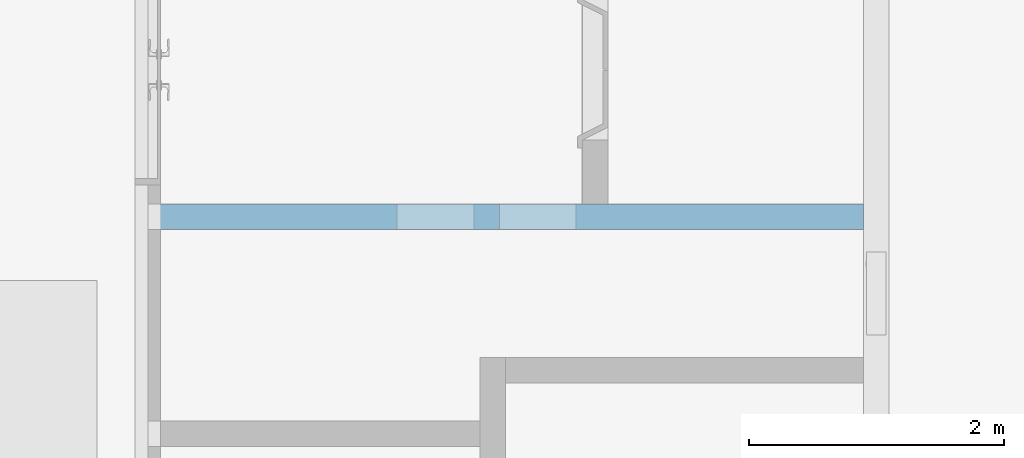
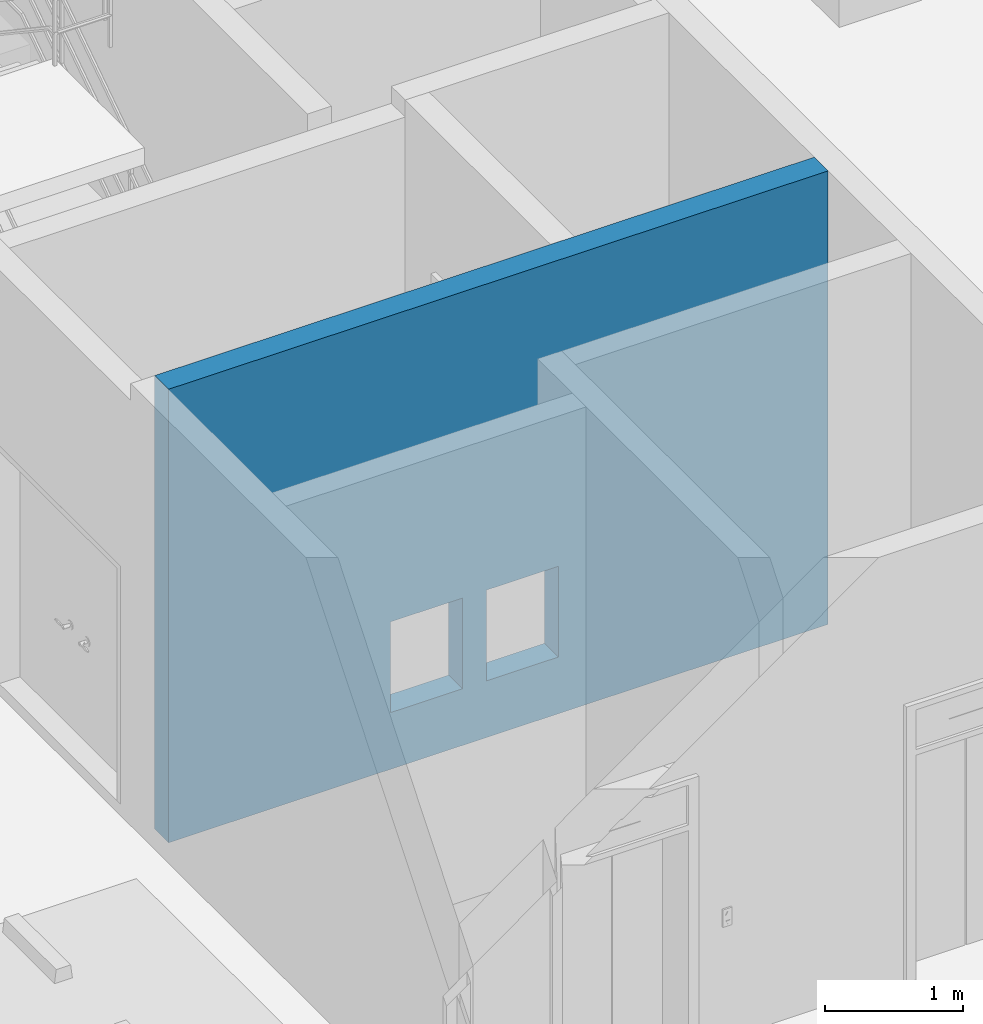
# One storey, part 11 of 30: 1 wall, 2 openings.
"""IFC2X3 building model written with IfcOpenShell, lengths in millimetres."""

import ifcopenshell
import ifcopenshell.guid

model = None  # the IFC model being written
_history = None  # IfcOwnerHistory: only IFC2X3 demands one
_inside = {}  # id of a spatial element -> (the spatial element, [elements in it])
_under = {}  # id of a project, library or spatial element -> (it, [spatial elements below it])
_declared = {}  # id of a project -> (the project, [libraries it declares])
_typed = {}  # id of a type object -> (the type object, [elements of that type])
_made_of = {}  # id of a material, layer set ... -> (it, [elements and type objects made of it])


def new_model(schema):
    """Start an empty IFC model of exactly this schema.

    Asked for "IFC4X3", IfcOpenShell would pick the latest addendum, in which some entities
    have other attributes; the version numbers below select the first issue.
    IFC2X3 requires an IfcOwnerHistory on every rooted entity: one is made here for all.
    """
    global model, _history
    if schema == "IFC4X3":
        model = ifcopenshell.file(schema_version=(4, 3, 0, 0))
    else:
        model = ifcopenshell.file(schema=schema)
    _inside.clear()
    _under.clear()
    _declared.clear()
    _typed.clear()
    _made_of.clear()
    _history = None
    if model.schema == "IFC2X3":
        org = make("IfcOrganization", Name="unknown")
        user = make(
            "IfcPersonAndOrganization",
            ThePerson=make("IfcPerson", FamilyName="unknown"),
            TheOrganization=org,
        )
        app = make(
            "IfcApplication",
            ApplicationDeveloper=org,
            Version="unknown",
            ApplicationFullName="unknown",
            ApplicationIdentifier="unknown",
        )
        _history = make(
            "IfcOwnerHistory",
            OwningUser=user,
            OwningApplication=app,
            ChangeAction="ADDED",
            CreationDate=0,
        )
    return model


def make(cls, **values):
    """One entity of the class cls with the attributes given. An attribute that is None is left unset."""
    return model.create_entity(
        cls, **{name: value for name, value in values.items() if value is not None}
    )


def entity(cls, *values):
    """Any entity or typed value of the class cls, its attributes in the order of the schema. None: left unset."""
    e = model.create_entity(cls)
    for i, value in enumerate(values):
        if value is not None:
            e[i] = value
    return e


def rooted(cls, **values):
    """An entity with a GlobalId (a new one), such as an element, a storey or a relation."""
    return make(cls, GlobalId=ifcopenshell.guid.new(), OwnerHistory=_history, **values)


def si_unit(unit_type, name, prefix=None):
    """IfcSIUnit, for example si_unit("LENGTHUNIT", "METRE", prefix="MILLI")."""
    return make("IfcSIUnit", UnitType=unit_type, Prefix=prefix, Name=name)


def converted_unit(unit_type, name, factor, base, dimensions=None, offset=None):
    """IfcConversionBasedUnit, such as the inch: factor (a typed value) times the base unit."""
    return make(
        "IfcConversionBasedUnit"
        if offset is None
        else "IfcConversionBasedUnitWithOffset",
        ConversionOffset=offset,
        Dimensions=None
        if dimensions is None
        else entity("IfcDimensionalExponents", *dimensions),
        UnitType=unit_type,
        Name=name,
        ConversionFactor=make(
            "IfcMeasureWithUnit", ValueComponent=factor, UnitComponent=base
        ),
    )


def derived_unit(unit_type, elements):
    """IfcDerivedUnit: a product of units, each with its exponent."""
    return make(
        "IfcDerivedUnit",
        Elements=[
            make("IfcDerivedUnitElement", Unit=unit, Exponent=power)
            for unit, power in elements
        ],
        UnitType=unit_type,
    )


def assignment(units):
    """IfcUnitAssignment: the units of a project."""
    return None if units is None else make("IfcUnitAssignment", Units=units)


def point(xyz):
    """IfcCartesianPoint."""
    return None if xyz is None else make("IfcCartesianPoint", Coordinates=xyz)


def direction(xyz):
    """IfcDirection."""
    return None if xyz is None else make("IfcDirection", DirectionRatios=xyz)


def frame(location, z_axis=None, x_axis=None):
    """IfcAxis2Placement3D, a coordinate frame: its origin and axes. An axis left out is left unset."""
    return make(
        "IfcAxis2Placement3D",
        Location=point(location),
        Axis=direction(z_axis),
        RefDirection=direction(x_axis),
    )


def frame_2d(location, x_axis=None):
    """IfcAxis2Placement2D, a coordinate frame in the plane: its origin and x axis."""
    return make(
        "IfcAxis2Placement2D", Location=point(location), RefDirection=direction(x_axis)
    )


def origin():
    """The frame at (0, 0, 0) with its axes left unset."""
    return frame((0.0, 0.0, 0.0))


def place(relative_to, where):
    """IfcLocalPlacement: puts the frame where relative to a parent placement (None: the world)."""
    return make(
        "IfcLocalPlacement", PlacementRelTo=relative_to, RelativePlacement=where
    )


def context(
    kind, dimensions, precision=None, world=None, true_north=None, identifier=None
):
    """IfcGeometricRepresentationContext, for example the 3D "Model" context."""
    return make(
        "IfcGeometricRepresentationContext",
        ContextIdentifier=identifier,
        ContextType=kind,
        CoordinateSpaceDimension=dimensions,
        Precision=precision,
        WorldCoordinateSystem=world,
        TrueNorth=true_north,
    )


def subcontext(parent, identifier, kind, view, scale=None):
    """IfcGeometricRepresentationSubContext, for example "Body" below "Model"."""
    return make(
        "IfcGeometricRepresentationSubContext",
        ContextIdentifier=identifier,
        ContextType=kind,
        ParentContext=parent,
        TargetScale=scale,
        TargetView=view,
    )


def project(units=None, contexts=None):
    """IfcProject with its units and contexts."""
    return rooted(
        "IfcProject",
        Name="project",
        RepresentationContexts=contexts,
        UnitsInContext=assignment(units),
    )


def spatial(cls, under=None, at=None, **own):
    """A site, building, storey or space (cls), placed at a placement, below another one or the project."""
    s = rooted(cls, ObjectPlacement=at, **own)
    if under is not None:
        _under.setdefault(under.id(), (under, []))[1].append(s)
    return s


def profile(cls, at=None, kind="AREA", **sizes):
    """A parametric profile (cls). Its sizes go by their IFC names, for example OverallWidth=200.0."""
    return make(cls, ProfileType=kind, Position=at, **sizes)


def rectangle(**sizes):
    """IfcRectangleProfileDef."""
    return profile("IfcRectangleProfileDef", **sizes)


def extrude(swept, where, along, depth):
    """IfcExtrudedAreaSolid: the profile swept, set in the frame where, extruded along a direction by depth."""
    return make(
        "IfcExtrudedAreaSolid",
        SweptArea=swept,
        Position=where,
        ExtrudedDirection=direction(along),
        Depth=depth,
    )


def shape(context_of_items, identifier, shape_type, items):
    """IfcShapeRepresentation: the items that make up one representation, for example the "Body"."""
    return make(
        "IfcShapeRepresentation",
        ContextOfItems=context_of_items,
        RepresentationIdentifier=identifier,
        RepresentationType=shape_type,
        Items=items,
    )


def material(Name=None, Category=None):
    """IfcMaterial."""
    return make("IfcMaterial", Name=Name, Category=Category)


def layer(
    of_material, thickness, ventilated=None, Name=None, Category=None, Priority=None
):
    """IfcMaterialLayer: one layer of a wall or slab, of a material (None: an air gap)."""
    return make(
        "IfcMaterialLayer",
        Material=of_material,
        LayerThickness=thickness,
        IsVentilated=ventilated,
        Name=Name,
        Category=Category,
        Priority=Priority,
    )


def layer_set(layers, Name=None):
    """IfcMaterialLayerSet."""
    return make("IfcMaterialLayerSet", MaterialLayers=layers, LayerSetName=Name)


def layer_usage(for_layer_set, set_direction, sense, offset, extent=None):
    """IfcMaterialLayerSetUsage: how a layer set lies in its element."""
    return make(
        "IfcMaterialLayerSetUsage",
        ForLayerSet=for_layer_set,
        LayerSetDirection=set_direction,
        DirectionSense=sense,
        OffsetFromReferenceLine=offset,
        ReferenceExtent=extent,
    )


def made_of(thing, what):
    """Note that an element or type object is made of a material, layer set ...; save() writes the relation."""
    if what is not None:
        _made_of.setdefault(what.id(), (what, []))[1].append(thing)
    return thing


def type_object(cls, material=None, **own):
    """A type object (cls), such as IfcWallType, which elements share."""
    return made_of(rooted(cls, **own), material)


def element(
    cls,
    number,
    at=None,
    inside=None,
    cuts=None,
    type_object=None,
    material=None,
    context=None,
    identifier="Body",
    shape_type=None,
    held_by="IfcProductDefinitionShape",
    body=None,
    shapes=None,
    **own,
):
    """One element of the class cls, such as IfcWall. Its Tag is "e" and its number.

    at: its placement. inside: the storey or other place that contains it. cuts: it is an
    opening in that element (IfcRelVoidsElement). A single representation is given by context,
    identifier, shape_type and body (its items); several are given by shapes. held_by: the class
    of the entity that holds the representations. save() writes the other relations.
    """
    e = rooted(cls, Tag="e%d" % number, ObjectPlacement=at, **own)
    if body is not None:
        shapes = [shape(context, identifier, shape_type, body)]
    if shapes is not None:
        e.Representation = make(held_by, Representations=shapes)
    if inside is not None:
        _inside.setdefault(inside.id(), (inside, []))[1].append(e)
    if cuts is not None:
        rooted(
            "IfcRelVoidsElement", RelatingBuildingElement=cuts, RelatedOpeningElement=e
        )
    if type_object is not None:
        _typed.setdefault(type_object.id(), (type_object, []))[1].append(e)
    return made_of(e, material)


def aggregate(whole, parts):
    """IfcRelAggregates: a whole, such as a stair, and the parts it consists of."""
    return rooted("IfcRelAggregates", RelatingObject=whole, RelatedObjects=parts)


def save(model, path):
    """Write the relations noted so far, then the file.

    IfcRelAggregates (storeys below a building ...), IfcRelContainedInSpatialStructure (elements
    in a storey), IfcRelDefinesByType, IfcRelAssociatesMaterial and IfcRelDeclares: one each for
    every whole, place, type object, material and project.
    """
    for whole, parts in _under.values():
        aggregate(whole, parts)
    for where, things in _inside.values():
        rooted(
            "IfcRelContainedInSpatialStructure",
            RelatedElements=things,
            RelatingStructure=where,
        )
    for kind, things in _typed.values():
        rooted("IfcRelDefinesByType", RelatedObjects=things, RelatingType=kind)
    for what, things in _made_of.values():
        rooted("IfcRelAssociatesMaterial", RelatedObjects=things, RelatingMaterial=what)
    for by, libraries in _declared.values():
        rooted("IfcRelDeclares", RelatingContext=by, RelatedDefinitions=libraries)
    model.write(path)


model = new_model("IFC2X3")

# Units and contexts
model_context = context("Model", 3, precision=0.01, world=origin(), true_north=direction((6.123031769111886e-17, 1.0)))
body_context = subcontext(model_context, "Body", "Model", "MODEL_VIEW")
ifc_project = project(units=[si_unit("LENGTHUNIT", "METRE", prefix="MILLI"), si_unit("AREAUNIT", "SQUARE_METRE"), si_unit("VOLUMEUNIT", "CUBIC_METRE"), converted_unit("PLANEANGLEUNIT", "DEGREE", entity("IfcRatioMeasure", 0.017453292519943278), si_unit("PLANEANGLEUNIT", "RADIAN"), dimensions=[0, 0, 0, 0, 0, 0, 0]), si_unit("MASSUNIT", "GRAM", prefix="KILO"), derived_unit("MASSDENSITYUNIT", [(si_unit("MASSUNIT", "GRAM", prefix="KILO"), 1), (si_unit("LENGTHUNIT", "METRE"), -3)]), derived_unit("MOMENTOFINERTIAUNIT", [(si_unit("LENGTHUNIT", "METRE"), 4)]), si_unit("TIMEUNIT", "SECOND"), si_unit("FREQUENCYUNIT", "HERTZ"), si_unit("THERMODYNAMICTEMPERATUREUNIT", "DEGREE_CELSIUS"), derived_unit("THERMALTRANSMITTANCEUNIT", [(si_unit("MASSUNIT", "GRAM", prefix="KILO"), 1), (si_unit("THERMODYNAMICTEMPERATUREUNIT", "KELVIN"), -1), (si_unit("TIMEUNIT", "SECOND"), -3)]), derived_unit("VOLUMETRICFLOWRATEUNIT", [(si_unit("LENGTHUNIT", "METRE"), 3), (si_unit("TIMEUNIT", "SECOND"), -1)]), derived_unit("MASSFLOWRATEUNIT", [(si_unit("MASSUNIT", "GRAM", prefix="KILO"), 1), (si_unit("TIMEUNIT", "SECOND"), -1)]), derived_unit("ROTATIONALFREQUENCYUNIT", [(si_unit("TIMEUNIT", "SECOND"), -1)]), si_unit("ELECTRICCURRENTUNIT", "AMPERE"), si_unit("ELECTRICVOLTAGEUNIT", "VOLT"), si_unit("POWERUNIT", "WATT"), si_unit("FORCEUNIT", "NEWTON", prefix="KILO"), si_unit("ILLUMINANCEUNIT", "LUX"), si_unit("LUMINOUSFLUXUNIT", "LUMEN"), si_unit("LUMINOUSINTENSITYUNIT", "CANDELA"), derived_unit("USERDEFINED", [(si_unit("MASSUNIT", "GRAM", prefix="KILO"), -1), (si_unit("LENGTHUNIT", "METRE"), -2), (si_unit("TIMEUNIT", "SECOND"), 3), (si_unit("LUMINOUSFLUXUNIT", "LUMEN"), 1)]), derived_unit("SOUNDPOWERUNIT", [(si_unit("MASSUNIT", "GRAM", prefix="KILO"), 1), (si_unit("LENGTHUNIT", "METRE"), 2), (si_unit("TIMEUNIT", "SECOND"), -3)]), derived_unit("SOUNDPRESSUREUNIT", [(si_unit("MASSUNIT", "GRAM", prefix="KILO"), 1), (si_unit("LENGTHUNIT", "METRE"), -1), (si_unit("TIMEUNIT", "SECOND"), -2)]), derived_unit("LINEARVELOCITYUNIT", [(si_unit("LENGTHUNIT", "METRE"), 1), (si_unit("TIMEUNIT", "SECOND"), -1)]), si_unit("PRESSUREUNIT", "PASCAL"), derived_unit("USERDEFINED", [(si_unit("LENGTHUNIT", "METRE"), -2), (si_unit("MASSUNIT", "GRAM", prefix="KILO"), 1), (si_unit("TIMEUNIT", "SECOND"), -2)]), derived_unit("LINEARFORCEUNIT", [(si_unit("MASSUNIT", "GRAM", prefix="KILO"), 1), (si_unit("LENGTHUNIT", "METRE"), 1), (si_unit("TIMEUNIT", "SECOND"), -2), (si_unit("LENGTHUNIT", "METRE"), -1)]), derived_unit("PLANARFORCEUNIT", [(si_unit("MASSUNIT", "GRAM", prefix="KILO"), 1), (si_unit("LENGTHUNIT", "METRE"), 1), (si_unit("TIMEUNIT", "SECOND"), -2), (si_unit("LENGTHUNIT", "METRE"), -2)])], contexts=[model_context])

# Site, building, storey
site_placement = place(None, frame((-14167.972527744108, -657.2125860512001, 0.0)))
site = spatial("IfcSite", under=ifc_project, at=site_placement, Name="Default", CompositionType="ELEMENT")
building_placement = place(site_placement, origin())
building = spatial("IfcBuilding", under=site, at=building_placement, Name="Sample Building", CompositionType="ELEMENT")
storey_placement = place(building_placement, frame((0.0, 0.0, -10100.0)))
storey = spatial("IfcBuildingStorey", under=building, at=storey_placement, Name="지하2층", CompositionType="ELEMENT", Elevation=-10100.0)

# Wall, openings
ifc_material = material(Name="KBIMS-콘크리트")
ifc_layer = layer(ifc_material, 200.0)
ifc_layer_set = layer_set([ifc_layer], Name="기본 벽:WA111-철근콘크리트구조 벽 200mm_CW1")
ifc_layer_usage = layer_usage(ifc_layer_set, "AXIS2", "NEGATIVE", 100.0)
wall_type = type_object("IfcWallType", Name="기본 벽:WA111-철근콘크리트구조 벽 200mm_CW1", PredefinedType="STANDARD", material=ifc_layer_set)
wall_placement = place(storey_placement, frame((30266.125814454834, 20057.212307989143, 0.0)))
wall = element("IfcWallStandardCase", 1, at=wall_placement, inside=storey, type_object=wall_type, material=ifc_layer_usage, Name="기본 벽:WA111-철근콘크리트구조 벽 200mm_CW1", ObjectType="기본 벽:WA111-철근콘크리트구조 벽 200mm_CW1", context=body_context, shape_type="SweptSolid", body=[
    extrude(rectangle(XDim=5501.846676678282, YDim=199.99999999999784, at=frame_2d((2750.923338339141, -1.2079226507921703e-13), x_axis=(-1.0, 0.0))), origin(), (0.0, 0.0, 1.0), 4000.0000000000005),
])
opening_1_placement = place(wall_placement, frame((1851.846496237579, -100.0, 500.0)))
element("IfcOpeningElement", 2, at=opening_1_placement, cuts=wall, Name="WD733-그릴창(알루미늄):WD733-그릴창(알루미늄)_600x800mm:1", ObjectType="Opening", context=body_context, shape_type="SweptSolid", body=[
    extrude(rectangle(XDim=800.0000000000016, YDim=600.0000000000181, at=frame_2d((400.000000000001, 300.0000000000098), x_axis=(-1.0, 0.0))), frame((0.0, 0.0, 0.0), z_axis=(0.0, 1.0, 0.0), x_axis=(0.0, 0.0, 1.0)), (0.0, 0.0, 1.0), 200.0),
])
opening_2_placement = place(wall_placement, frame((2651.846766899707, -100.0, 500.0)))
element("IfcOpeningElement", 3, at=opening_2_placement, cuts=wall, Name="WD733-그릴창(알루미늄):WD733-그릴창(알루미늄)_600x800mm:1", ObjectType="Opening", context=body_context, shape_type="SweptSolid", body=[
    extrude(rectangle(XDim=800.0000000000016, YDim=600.0000000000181, at=frame_2d((400.000000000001, 300.0000000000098), x_axis=(-1.0, 0.0))), frame((0.0, 0.0, 0.0), z_axis=(0.0, 1.0, 0.0), x_axis=(0.0, 0.0, 1.0)), (0.0, 0.0, 1.0), 200.0),
])

save(model, "model.ifc")
